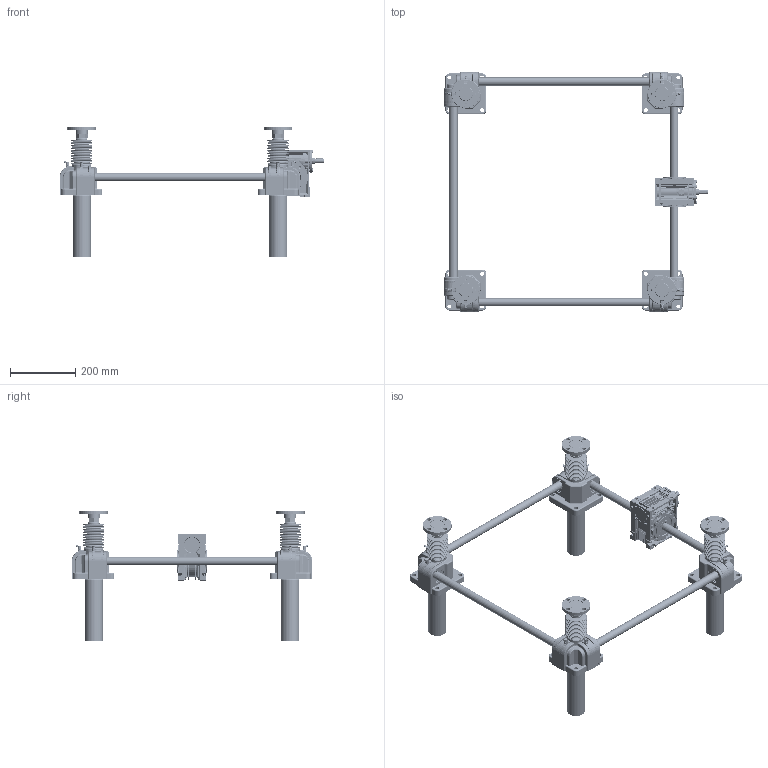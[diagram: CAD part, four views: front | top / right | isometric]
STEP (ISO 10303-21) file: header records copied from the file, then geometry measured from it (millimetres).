
FILE_DESCRIPTION(('STEP AP203'),'1');
FILE_NAME('SPH1500FCJ-600x600-300-150ST_CAP-050.stp','2016-08-18T02:28:34',(' '),(' '),'Spatial InterOp 3D',' ',' ');
FILE_SCHEMA(('CONFIG_CONTROL_DESIGN'));
Length unit declared in the file: millimetre
Products named in the file (124): SPH1500FCJ-600x600-300-150ST_CAP-050; Rack Gear(SP-1500FC); Flange.1-Part; Flange.1; Joint.1; Nut.1; Flange.2-Part; Flange.2; Joint.2; Nut.2; Flange.3-Part; Flange.3; Joint.3; Nut.3; Flange.4-Part; Flange.4; Joint.4; Nut.4; Bellow(SP-1500); Body.1-Part; Nipple; b6205zz; SnapRing-55Pie; Gear Box.1(NSP-1500); RJ05-4SCJ-610X600-100ST_CAP; LABEL-B.1; ___; 파트18; __ ; Body.2-Part; Gear Box.2(NSP-1500); Body.3-Part; Gear Box.3(NSP-1500); Body.4-Part; Gear Box.4(NSP-1500); Cap.1-Part; Cap.1; Snap Ring.1; Cap.2-Part; Cap.2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
Assembly tree (131 placements, depth 6):
  SPH1500FCJ-600x600-300-150ST_CAP-050
    Rack Gear(SP-1500FC)  x4
    Flange.1-Part
      Flange.1
      Joint.1
      Nut.1
    Flange.2-Part
      Flange.2
      Joint.2
      Nut.2
    Flange.3-Part
      Flange.3
      Joint.3
      Nut.3
    Flange.4-Part
      Flange.4
      Joint.4
      Nut.4
    Bellow(SP-1500)  x4
    Body.1-Part
      Nipple
      Nipple
      b6205zz
      b6205zz
      SnapRing-55Pie
      SnapRing-55Pie
      Gear Box.1(NSP-1500)
      __ 
        ___
          RJ05-4SCJ-610X600-100ST_CAP
            LABEL-B.1
          파트18
    Body.2-Part
      Nipple
      Nipple
      b6205zz
      b6205zz
      SnapRing-55Pie
      SnapRing-55Pie
      Gear Box.2(NSP-1500)
      __ 
        ___
          RJ05-4SCJ-610X600-100ST_CAP
            LABEL-B.1
          파트18
    Body.3-Part
      Nipple
      Nipple
      b6205zz
      b6205zz
      SnapRing-55Pie
      SnapRing-55Pie
      Gear Box.3(NSP-1500)
      __ 
        ___
          RJ05-4SCJ-610X600-100ST_CAP
            LABEL-B.1
          파트18
    Body.4-Part
      Nipple
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Bounding box: 809.12 x 735.23 x 400 mm (x, y, z)
Volume: 6461661.8 mm3; surface area: 2135742.3 mm2
Topology: 143 solids, 178 shells, 14832 faces, 40647 edges, 26456 vertices
Faces by surface type: plane 11138, cylinder 2164, torus 552, cone 342, bspline 224, revolution 172, extrusion 152, sphere 88
Full cylindrical faces by diameter (mm): 2.975 x8, 3.087 x16, 3.775 x3, 4.8 x8, 4.917 x1, 5.55 x4, 6.4 x1, 6.647 x8, 8 x8, 8.8 x8, 9.886 x8, 10 x16, 12 x32, 14 x1, 16 x1, 20 x1, 25 x28, 27 x4, 28 x9, 32.5 x16, 34 x1, 35 x64, 36 x4, 37 x4, 38 x4, 39 x12, 39.4 x4, 40 x2, 41 x8, 44 x4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
Entity records: 438913 total; most frequent: CARTESIAN_POINT 106432, ORIENTED_EDGE 69947, DIRECTION 62057, EDGE_CURVE 35028, VECTOR 29617, LINE 29465, VERTEX_POINT 23254, AXIS2_PLACEMENT_3D 16134
